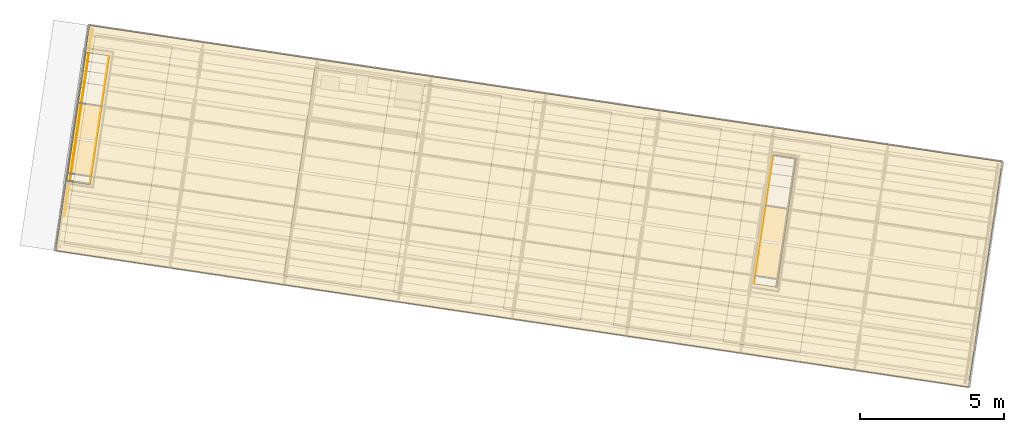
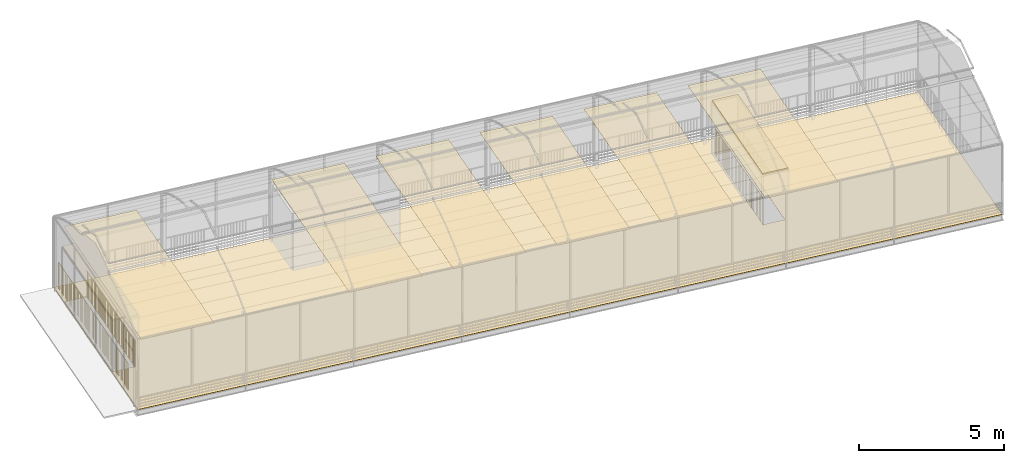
# One storey, part 31 of 34: 10 coverings, 3 railings, 4 openings.
"""IFC4 building model written with IfcOpenShell, lengths in metres."""

from ifc_helpers import new_model, si_unit, direction, frame, origin_with_axes, place, context, subcontext, project, spatial, polyline, circle, outline, extrude, material, element, save


model = new_model("IFC4")

# Units and contexts
model_context = context("Model", 3, precision=1e-05, world=origin_with_axes(), true_north=direction((0.0, 1.0)))
body_context = subcontext(model_context, "Body", "Model", "MODEL_VIEW")
ifc_project = project(units=[si_unit("AREAUNIT", "SQUARE_METRE"), si_unit("VOLUMEUNIT", "CUBIC_METRE"), si_unit("LENGTHUNIT", "METRE")], contexts=[model_context])

# Site, building, storey
site_placement = place(None, origin_with_axes())
site = spatial("IfcSite", under=ifc_project, at=site_placement, Name="Lares · Rua das Mercês · artigo 4771")
building_placement = place(site_placement, frame((15.0, 9.7, 14.65), z_axis=(0.0, 0.0, 1.0), x_axis=(0.989015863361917, -0.147809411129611, 0.0)))
building = spatial("IfcBuilding", under=site, at=building_placement, Name="Casa Sobreposta")
storey_placement = place(building_placement, frame((0.0, 0.0, 3.24), z_axis=(0.0, 0.0, 1.0), x_axis=(1.0, 0.0, 0.0)))
storey = spatial("IfcBuildingStorey", under=building, at=storey_placement, Name="01 · Jardim de inverno", Elevation=17.89)

# Covering, openings
ifc_material_1 = material(Name="Membrana impermeável — hipótese", Category="membrane")
covering_1_placement = place(storey_placement, frame((0.0, 0.0, -0.012), z_axis=(0.0, 0.0, 1.0), x_axis=(1.0, 0.0, 0.0)))
covering_1 = element("IfcCovering", 1, at=covering_1_placement, inside=storey, material=ifc_material_1, Name="Impermeabilização da estufa · hipótese", PredefinedType="FLOORING", context=body_context, shape_type="SweptSolid", body=[
    extrude(outline(polyline([(32.0, -1.5), (32.0, 6.4), (0.0, 6.4), (0.0, -1.5), (32.0, -1.5)])), origin_with_axes(), (0.0, 0.0, 1.0), 0.002),
])
opening_1_placement = place(covering_1_placement, frame((0.0, 0.0, -0.00999999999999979), z_axis=(0.0, 0.0, 1.0), x_axis=(1.0, 0.0, 0.0)))
element("IfcOpeningElement", 2, at=opening_1_placement, cuts=covering_1, Name="Vão de escada 1 · Impermeabilização da estufa · hipótese", PredefinedType="OPENING", context=body_context, shape_type="SweptSolid", body=[
    extrude(outline(polyline([(0.04, 0.9475), (0.84, 0.9475), (0.84, 5.4525), (0.04, 5.4525), (0.04, 0.9475)])), origin_with_axes(), (0.0, 0.0, 1.0), 0.022),
])
opening_2_placement = place(covering_1_placement, frame((0.0, 0.0, -0.00999999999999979), z_axis=(0.0, 0.0, 1.0), x_axis=(1.0, 0.0, 0.0)))
element("IfcOpeningElement", 3, at=opening_2_placement, cuts=covering_1, Name="Vão de escada 2 · Impermeabilização da estufa · hipótese", PredefinedType="OPENING", context=body_context, shape_type="SweptSolid", body=[
    extrude(outline(polyline([(24.91, 0.9475), (24.91, 5.4525), (24.11, 5.4525), (24.11, 0.9475), (24.91, 0.9475)])), origin_with_axes(), (0.0, 0.0, 1.0), 0.022),
])

ifc_material_2 = material(Name="Pavimento protetor leve — hipótese", Category="finish")
covering_2_placement = place(storey_placement, frame((0.0, 0.0, -0.00999999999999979), z_axis=(0.0, 0.0, 1.0), x_axis=(1.0, 0.0, 0.0)))
covering_2 = element("IfcCovering", 4, at=covering_2_placement, inside=storey, material=ifc_material_2, Name="Proteção do pavimento · hipótese", PredefinedType="FLOORING", context=body_context, shape_type="SweptSolid", body=[
    extrude(outline(polyline([(32.0, -1.5), (32.0, 6.4), (0.0, 6.4), (0.0, -1.5), (32.0, -1.5)])), origin_with_axes(), (0.0, 0.0, 1.0), 0.01),
])
opening_3_placement = place(covering_2_placement, frame((0.0, 0.0, -0.00999999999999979), z_axis=(0.0, 0.0, 1.0), x_axis=(1.0, 0.0, 0.0)))
element("IfcOpeningElement", 5, at=opening_3_placement, cuts=covering_2, Name="Vão de escada 1 · Proteção do pavimento · hipótese", PredefinedType="OPENING", context=body_context, shape_type="SweptSolid", body=[
    extrude(outline(polyline([(0.04, 0.9475), (0.84, 0.9475), (0.84, 5.4525), (0.04, 5.4525), (0.04, 0.9475)])), origin_with_axes(), (0.0, 0.0, 1.0), 0.03),
])
opening_4_placement = place(covering_2_placement, frame((0.0, 0.0, -0.00999999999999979), z_axis=(0.0, 0.0, 1.0), x_axis=(1.0, 0.0, 0.0)))
element("IfcOpeningElement", 6, at=opening_4_placement, cuts=covering_2, Name="Vão de escada 2 · Proteção do pavimento · hipótese", PredefinedType="OPENING", context=body_context, shape_type="SweptSolid", body=[
    extrude(outline(polyline([(24.91, 0.9475), (24.91, 5.4525), (24.11, 5.4525), (24.11, 0.9475), (24.91, 0.9475)])), origin_with_axes(), (0.0, 0.0, 1.0), 0.03),
])

# Railing
ifc_material_3 = material(Name="Aço pintado / Stahl lackiert", Category="steel")
railing_1_placement = place(storey_placement, frame((0.0, 0.0, -3.24), z_axis=(0.0, 0.0, 1.0), x_axis=(1.0, 0.0, 0.0)))
element("IfcRailing", 7, at=railing_1_placement, inside=storey, material=ifc_material_3, Name="Guarda perimetral da estufa", PredefinedType="GUARDRAIL", context=body_context, shape_type="SweptSolid", body=[
    extrude(circle(Radius=0.015), frame((0.13, 6.27, 4.34), z_axis=(0.0, -1.0, 0.0), x_axis=(-1.0, 0.0, 0.0)), (0.0, 0.0, 1.0), 6.52),
    extrude(circle(Radius=0.0175), frame((0.13, 6.27, 3.24), z_axis=(0.0, 0.0, 1.0), x_axis=(1.0, 0.0, 0.0)), (0.0, 0.0, 1.0), 1.1),
    extrude(circle(Radius=0.006), frame((0.13, 6.16133333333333, 3.24), z_axis=(0.0, 0.0, 1.0), x_axis=(1.0, 0.0, 0.0)), (0.0, 0.0, 1.0), 1.1),
    extrude(circle(Radius=0.006), frame((0.13, 6.05266666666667, 3.24), z_axis=(0.0, 0.0, 1.0), x_axis=(1.0, 0.0, 0.0)), (0.0, 0.0, 1.0), 1.1),
    extrude(circle(Radius=0.006), frame((0.13, 5.944, 3.24), z_axis=(0.0, 0.0, 1.0), x_axis=(1.0, 0.0, 0.0)), (0.0, 0.0, 1.0), 1.1),
    extrude(circle(Radius=0.006), frame((0.13, 5.83533333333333, 3.24), z_axis=(0.0, 0.0, 1.0), x_axis=(1.0, 0.0, 0.0)), (0.0, 0.0, 1.0), 1.1),
    extrude(circle(Radius=0.006), frame((0.13, 5.72666666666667, 3.24), z_axis=(0.0, 0.0, 1.0), x_axis=(1.0, 0.0, 0.0)), (0.0, 0.0, 1.0), 1.1),
    extrude(circle(Radius=0.006), frame((0.13, 5.618, 3.24), z_axis=(0.0, 0.0, 1.0), x_axis=(1.0, 0.0, 0.0)), (0.0, 0.0, 1.0), 1.1),
    extrude(circle(Radius=0.006), frame((0.13, 5.50933333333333, 3.24), z_axis=(0.0, 0.0, 1.0), x_axis=(1.0, 0.0, 0.0)), (0.0, 0.0, 1.0), 1.1),
    extrude(circle(Radius=0.006), frame((0.13, 5.40066666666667, 3.24), z_axis=(0.0, 0.0, 1.0), x_axis=(1.0, 0.0, 0.0)), (0.0, 0.0, 1.0), 1.1),
    extrude(circle(Radius=0.006), frame((0.13, 5.292, 3.24), z_axis=(0.0, 0.0, 1.0), x_axis=(1.0, 0.0, 0.0)), (0.0, 0.0, 1.0), 1.1),
    extrude(circle(Radius=0.0175), frame((0.13, 5.18333333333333, 3.24), z_axis=(0.0, 0.0, 1.0), x_axis=(1.0, 0.0, 0.0)), (0.0, 0.0, 1.0), 1.1),
    extrude(circle(Radius=0.006), frame((0.13, 5.07466666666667, 3.24), z_axis=(0.0, 0.0, 1.0), x_axis=(1.0, 0.0, 0.0)), (0.0, 0.0, 1.0), 1.1),
    extrude(circle(Radius=0.006), frame((0.13, 4.966, 3.24), z_axis=(0.0, 0.0, 1.0), x_axis=(1.0, 0.0, 0.0)), (0.0, 0.0, 1.0), 1.1),
    extrude(circle(Radius=0.006), frame((0.13, 4.85733333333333, 3.24), z_axis=(0.0, 0.0, 1.0), x_axis=(1.0, 0.0, 0.0)), (0.0, 0.0, 1.0), 1.1),
    extrude(circle(Radius=0.006), frame((0.13, 4.74866666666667, 3.24), z_axis=(0.0, 0.0, 1.0), x_axis=(1.0, 0.0, 0.0)), (0.0, 0.0, 1.0), 1.1),
    extrude(circle(Radius=0.006), frame((0.13, 4.64, 3.24), z_axis=(0.0, 0.0, 1.0), x_axis=(1.0, 0.0, 0.0)), (0.0, 0.0, 1.0), 1.1),
    extrude(circle(Radius=0.006), frame((0.13, 4.53133333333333, 3.24), z_axis=(0.0, 0.0, 1.0), x_axis=(1.0, 0.0, 0.0)), (0.0, 0.0, 1.0), 1.1),
    extrude(circle(Radius=0.006), frame((0.13, 4.42266666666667, 3.24), z_axis=(0.0, 0.0, 1.0), x_axis=(1.0, 0.0, 0.0)), (0.0, 0.0, 1.0), 1.1),
    extrude(circle(Radius=0.006), frame((0.13, 4.314, 3.24), z_axis=(0.0, 0.0, 1.0), x_axis=(1.0, 0.0, 0.0)), (0.0, 0.0, 1.0), 1.1),
    extrude(circle(Radius=0.006), frame((0.13, 4.20533333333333, 3.24), z_axis=(0.0, 0.0, 1.0), x_axis=(1.0, 0.0, 0.0)), (0.0, 0.0, 1.0), 1.1),
    extrude(circle(Radius=0.0175), frame((0.13, 4.09666666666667, 3.24), z_axis=(0.0, 0.0, 1.0), x_axis=(1.0, 0.0, 0.0)), (0.0, 0.0, 1.0), 1.1),
    extrude(circle(Radius=0.006), frame((0.13, 3.988, 3.24), z_axis=(0.0, 0.0, 1.0), x_axis=(1.0, 0.0, 0.0)), (0.0, 0.0, 1.0), 1.1),
    extrude(circle(Radius=0.006), frame((0.13, 3.87933333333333, 3.24), z_axis=(0.0, 0.0, 1.0), x_axis=(1.0, 0.0, 0.0)), (0.0, 0.0, 1.0), 1.1),
    extrude(circle(Radius=0.006), frame((0.13, 3.77066666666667, 3.24), z_axis=(0.0, 0.0, 1.0), x_axis=(1.0, 0.0, 0.0)), (0.0, 0.0, 1.0), 1.1),
    extrude(circle(Radius=0.006), frame((0.13, 3.662, 3.24), z_axis=(0.0, 0.0, 1.0), x_axis=(1.0, 0.0, 0.0)), (0.0, 0.0, 1.0), 1.1),
    extrude(circle(Radius=0.006), frame((0.13, 3.55333333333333, 3.24), z_axis=(0.0, 0.0, 1.0), x_axis=(1.0, 0.0, 0.0)), (0.0, 0.0, 1.0), 1.1),
    extrude(circle(Radius=0.006), frame((0.13, 3.44466666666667, 3.24), z_axis=(0.0, 0.0, 1.0), x_axis=(1.0, 0.0, 0.0)), (0.0, 0.0, 1.0), 1.1),
    extrude(circle(Radius=0.006), frame((0.13, 3.336, 3.24), z_axis=(0.0, 0.0, 1.0), x_axis=(1.0, 0.0, 0.0)), (0.0, 0.0, 1.0), 1.1),
    extrude(circle(Radius=0.006), frame((0.13, 3.22733333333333, 3.24), z_axis=(0.0, 0.0, 1.0), x_axis=(1.0, 0.0, 0.0)), (0.0, 0.0, 1.0), 1.1),
    extrude(circle(Radius=0.006), frame((0.13, 3.11866666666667, 3.24), z_axis=(0.0, 0.0, 1.0), x_axis=(1.0, 0.0, 0.0)), (0.0, 0.0, 1.0), 1.1),
    extrude(circle(Radius=0.0175), frame((0.13, 3.01, 3.24), z_axis=(0.0, 0.0, 1.0), x_axis=(1.0, 0.0, 0.0)), (0.0, 0.0, 1.0), 1.1),
    extrude(circle(Radius=0.006), frame((0.13, 2.90133333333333, 3.24), z_axis=(0.0, 0.0, 1.0), x_axis=(1.0, 0.0, 0.0)), (0.0, 0.0, 1.0), 1.1),
    extrude(circle(Radius=0.006), frame((0.13, 2.79266666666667, 3.24), z_axis=(0.0, 0.0, 1.0), x_axis=(1.0, 0.0, 0.0)), (0.0, 0.0, 1.0), 1.1),
    extrude(circle(Radius=0.006), frame((0.13, 2.684, 3.24), z_axis=(0.0, 0.0, 1.0), x_axis=(1.0, 0.0, 0.0)), (0.0, 0.0, 1.0), 1.1),
    extrude(circle(Radius=0.006), frame((0.13, 2.57533333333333, 3.24), z_axis=(0.0, 0.0, 1.0), x_axis=(1.0, 0.0, 0.0)), (0.0, 0.0, 1.0), 1.1),
    extrude(circle(Radius=0.006), frame((0.13, 2.46666666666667, 3.24), z_axis=(0.0, 0.0, 1.0), x_axis=(1.0, 0.0, 0.0)), (0.0, 0.0, 1.0), 1.1),
    extrude(circle(Radius=0.006), frame((0.13, 2.358, 3.24), z_axis=(0.0, 0.0, 1.0), x_axis=(1.0, 0.0, 0.0)), (0.0, 0.0, 1.0), 1.1),
    extrude(circle(Radius=0.006), frame((0.13, 2.24933333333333, 3.24), z_axis=(0.0, 0.0, 1.0), x_axis=(1.0, 0.0, 0.0)), (0.0, 0.0, 1.0), 1.1),
    extrude(circle(Radius=0.006), frame((0.13, 2.14066666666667, 3.24), z_axis=(0.0, 0.0, 1.0), x_axis=(1.0, 0.0, 0.0)), (0.0, 0.0, 1.0), 1.1),
    extrude(circle(Radius=0.006), frame((0.13, 2.032, 3.24), z_axis=(0.0, 0.0, 1.0), x_axis=(1.0, 0.0, 0.0)), (0.0, 0.0, 1.0), 1.1),
    extrude(circle(Radius=0.0175), frame((0.13, 1.92333333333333, 3.24), z_axis=(0.0, 0.0, 1.0), x_axis=(1.0, 0.0, 0.0)), (0.0, 0.0, 1.0), 1.1),
    extrude(circle(Radius=0.006), frame((0.13, 1.81466666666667, 3.24), z_axis=(0.0, 0.0, 1.0), x_axis=(1.0, 0.0, 0.0)), (0.0, 0.0, 1.0), 1.1),
    extrude(circle(Radius=0.006), frame((0.13, 1.706, 3.24), z_axis=(0.0, 0.0, 1.0), x_axis=(1.0, 0.0, 0.0)), (0.0, 0.0, 1.0), 1.1),
    extrude(circle(Radius=0.006), frame((0.13, 1.59733333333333, 3.24), z_axis=(0.0, 0.0, 1.0), x_axis=(1.0, 0.0, 0.0)), (0.0, 0.0, 1.0), 1.1),
    extrude(circle(Radius=0.006), frame((0.13, 1.48866666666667, 3.24), z_axis=(0.0, 0.0, 1.0), x_axis=(1.0, 0.0, 0.0)), (0.0, 0.0, 1.0), 1.1),
    extrude(circle(Radius=0.006), frame((0.13, 1.38, 3.24), z_axis=(0.0, 0.0, 1.0), x_axis=(1.0, 0.0, 0.0)), (0.0, 0.0, 1.0), 1.1),
    extrude(circle(Radius=0.006), frame((0.13, 1.27133333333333, 3.24), z_axis=(0.0, 0.0, 1.0), x_axis=(1.0, 0.0, 0.0)), (0.0, 0.0, 1.0), 1.1),
    extrude(circle(Radius=0.006), frame((0.13, 1.16266666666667, 3.24), z_axis=(0.0, 0.0, 1.0), x_axis=(1.0, 0.0, 0.0)), (0.0, 0.0, 1.0), 1.1),
    extrude(circle(Radius=0.006), frame((0.13, 1.054, 3.24), z_axis=(0.0, 0.0, 1.0), x_axis=(1.0, 0.0, 0.0)), (0.0, 0.0, 1.0), 1.1),
    extrude(circle(Radius=0.006), frame((0.13, 0.945333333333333, 3.24), z_axis=(0.0, 0.0, 1.0), x_axis=(1.0, 0.0, 0.0)), (0.0, 0.0, 1.0), 1.1),
    extrude(circle(Radius=0.0175), frame((0.13, 0.836666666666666, 3.24), z_axis=(0.0, 0.0, 1.0), x_axis=(1.0, 0.0, 0.0)), (0.0, 0.0, 1.0), 1.1),
    extrude(circle(Radius=0.006), frame((0.13, 0.728, 3.24), z_axis=(0.0, 0.0, 1.0), x_axis=(1.0, 0.0, 0.0)), (0.0, 0.0, 1.0), 1.1),
    extrude(circle(Radius=0.006), frame((0.13, 0.619333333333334, 3.24), z_axis=(0.0, 0.0, 1.0), x_axis=(1.0, 0.0, 0.0)), (0.0, 0.0, 1.0), 1.1),
    extrude(circle(Radius=0.006), frame((0.13, 0.510666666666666, 3.24), z_axis=(0.0, 0.0, 1.0), x_axis=(1.0, 0.0, 0.0)), (0.0, 0.0, 1.0), 1.1),
    extrude(circle(Radius=0.006), frame((0.13, 0.402, 3.24), z_axis=(0.0, 0.0, 1.0), x_axis=(1.0, 0.0, 0.0)), (0.0, 0.0, 1.0), 1.1),
    extrude(circle(Radius=0.006), frame((0.13, 0.293333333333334, 3.24), z_axis=(0.0, 0.0, 1.0), x_axis=(1.0, 0.0, 0.0)), (0.0, 0.0, 1.0), 1.1),
    extrude(circle(Radius=0.006), frame((0.13, 0.184666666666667, 3.24), z_axis=(0.0, 0.0, 1.0), x_axis=(1.0, 0.0, 0.0)), (0.0, 0.0, 1.0), 1.1),
    extrude(circle(Radius=0.006), frame((0.13, 0.0760000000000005, 3.24), z_axis=(0.0, 0.0, 1.0), x_axis=(1.0, 0.0, 0.0)), (0.0, 0.0, 1.0), 1.1),
    extrude(circle(Radius=0.006), frame((0.13, -0.0326666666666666, 3.24), z_axis=(0.0, 0.0, 1.0), x_axis=(1.0, 0.0, 0.0)), (0.0, 0.0, 1.0), 1.1),
    extrude(circle(Radius=0.006), frame((0.13, -0.141333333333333, 3.24), z_axis=(0.0, 0.0, 1.0), x_axis=(1.0, 0.0, 0.0)), (0.0, 0.0, 1.0), 1.1),
    extrude(circle(Radius=0.0175), frame((0.13, -0.25, 3.24), z_axis=(0.0, 0.0, 1.0), x_axis=(1.0, 0.0, 0.0)), (0.0, 0.0, 1.0), 1.1),
])

# Coverings
ifc_material_4 = material(Name="Tecido de sombreamento — hipótese", Category="fabric")
covering_3_placement = place(storey_placement, frame((0.0, 0.0, 2.68), z_axis=(0.0, 0.0, 1.0), x_axis=(1.0, 0.0, 0.0)))
element("IfcCovering", 8, at=covering_3_placement, inside=storey, material=ifc_material_4, Name="Cortina interior · 75%", ObjectType="Cortina interior · 75%", PredefinedType="USERDEFINED", context=body_context, shape_type="SweptSolid", body=[
    extrude(outline(polyline([(2.95, -1.2), (2.95, 6.1), (0.25, 6.1), (0.25, -1.2), (2.95, -1.2)])), origin_with_axes(), (0.0, 0.0, 1.0), 0.004),
])
covering_4_placement = place(storey_placement, frame((0.0, 0.0, 2.68), z_axis=(0.0, 0.0, 1.0), x_axis=(1.0, 0.0, 0.0)))
element("IfcCovering", 9, at=covering_4_placement, inside=storey, material=ifc_material_4, Name="Cortina interior · 75%", ObjectType="Cortina interior · 75%", PredefinedType="USERDEFINED", context=body_context, shape_type="SweptSolid", body=[
    extrude(outline(polyline([(10.65, -1.2), (10.65, 6.1), (7.95, 6.1), (7.95, -1.2), (10.65, -1.2)])), origin_with_axes(), (0.0, 0.0, 1.0), 0.004),
])
covering_5_placement = place(storey_placement, frame((0.0, 0.0, 2.68), z_axis=(0.0, 0.0, 1.0), x_axis=(1.0, 0.0, 0.0)))
element("IfcCovering", 10, at=covering_5_placement, inside=storey, material=ifc_material_4, Name="Cortina interior · 75%", ObjectType="Cortina interior · 75%", PredefinedType="USERDEFINED", context=body_context, shape_type="SweptSolid", body=[
    extrude(outline(polyline([(14.5, -1.2), (14.5, 6.1), (11.8, 6.1), (11.8, -1.2), (14.5, -1.2)])), origin_with_axes(), (0.0, 0.0, 1.0), 0.004),
])
covering_6_placement = place(storey_placement, frame((0.0, 0.0, 2.68), z_axis=(0.0, 0.0, 1.0), x_axis=(1.0, 0.0, 0.0)))
element("IfcCovering", 11, at=covering_6_placement, inside=storey, material=ifc_material_4, Name="Cortina interior · 75%", ObjectType="Cortina interior · 75%", PredefinedType="USERDEFINED", context=body_context, shape_type="SweptSolid", body=[
    extrude(outline(polyline([(18.35, -1.2), (18.35, 6.1), (15.65, 6.1), (15.65, -1.2), (18.35, -1.2)])), origin_with_axes(), (0.0, 0.0, 1.0), 0.004),
])
covering_7_placement = place(storey_placement, frame((0.0, 0.0, 2.68), z_axis=(0.0, 0.0, 1.0), x_axis=(1.0, 0.0, 0.0)))
element("IfcCovering", 12, at=covering_7_placement, inside=storey, material=ifc_material_4, Name="Cortina interior · 75%", ObjectType="Cortina interior · 75%", PredefinedType="USERDEFINED", context=body_context, shape_type="SweptSolid", body=[
    extrude(outline(polyline([(22.2, -1.2), (22.2, 6.1), (19.5, 6.1), (19.5, -1.2), (22.2, -1.2)])), origin_with_axes(), (0.0, 0.0, 1.0), 0.004),
])
covering_8_placement = place(storey_placement, frame((0.0, 0.0, 2.68), z_axis=(0.0, 0.0, 1.0), x_axis=(1.0, 0.0, 0.0)))
element("IfcCovering", 13, at=covering_8_placement, inside=storey, material=ifc_material_4, Name="Cortina interior · 75%", ObjectType="Cortina interior · 75%", PredefinedType="USERDEFINED", context=body_context, shape_type="SweptSolid", body=[
    extrude(outline(polyline([(26.05, -1.2), (26.05, 6.1), (23.35, 6.1), (23.35, -1.2), (26.05, -1.2)])), origin_with_axes(), (0.0, 0.0, 1.0), 0.004),
])

# Railings
railing_2_placement = place(storey_placement, frame((0.0, 0.0, -3.24), z_axis=(0.0, 0.0, 1.0), x_axis=(1.0, 0.0, 0.0)))
element("IfcRailing", 14, at=railing_2_placement, inside=storey, material=ifc_material_3, Name="Guarda do vazio", PredefinedType="GUARDRAIL", context=body_context, shape_type="SweptSolid", body=[
    extrude(circle(Radius=0.015), frame((0.84, 0.9475, 4.34), z_axis=(0.0, 1.0, 0.0), x_axis=(1.0, 0.0, 0.0)), (0.0, 0.0, 1.0), 4.505),
    extrude(circle(Radius=0.0175), frame((0.84, 0.9475, 3.24), z_axis=(0.0, 0.0, 1.0), x_axis=(1.0, 0.0, 0.0)), (0.0, 0.0, 1.0), 1.1),
    extrude(circle(Radius=0.006), frame((0.84, 1.05737804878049, 3.24), z_axis=(0.0, 0.0, 1.0), x_axis=(1.0, 0.0, 0.0)), (0.0, 0.0, 1.0), 1.1),
    extrude(circle(Radius=0.006), frame((0.84, 1.16725609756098, 3.24), z_axis=(0.0, 0.0, 1.0), x_axis=(1.0, 0.0, 0.0)), (0.0, 0.0, 1.0), 1.1),
    extrude(circle(Radius=0.006), frame((0.84, 1.27713414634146, 3.24), z_axis=(0.0, 0.0, 1.0), x_axis=(1.0, 0.0, 0.0)), (0.0, 0.0, 1.0), 1.1),
    extrude(circle(Radius=0.006), frame((0.84, 1.38701219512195, 3.24), z_axis=(0.0, 0.0, 1.0), x_axis=(1.0, 0.0, 0.0)), (0.0, 0.0, 1.0), 1.1),
    extrude(circle(Radius=0.006), frame((0.84, 1.49689024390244, 3.24), z_axis=(0.0, 0.0, 1.0), x_axis=(1.0, 0.0, 0.0)), (0.0, 0.0, 1.0), 1.1),
    extrude(circle(Radius=0.006), frame((0.84, 1.60676829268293, 3.24), z_axis=(0.0, 0.0, 1.0), x_axis=(1.0, 0.0, 0.0)), (0.0, 0.0, 1.0), 1.1),
    extrude(circle(Radius=0.006), frame((0.84, 1.71664634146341, 3.24), z_axis=(0.0, 0.0, 1.0), x_axis=(1.0, 0.0, 0.0)), (0.0, 0.0, 1.0), 1.1),
    extrude(circle(Radius=0.006), frame((0.84, 1.8265243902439, 3.24), z_axis=(0.0, 0.0, 1.0), x_axis=(1.0, 0.0, 0.0)), (0.0, 0.0, 1.0), 1.1),
    extrude(circle(Radius=0.006), frame((0.84, 1.93640243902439, 3.24), z_axis=(0.0, 0.0, 1.0), x_axis=(1.0, 0.0, 0.0)), (0.0, 0.0, 1.0), 1.1),
    extrude(circle(Radius=0.0175), frame((0.84, 2.04628048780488, 3.24), z_axis=(0.0, 0.0, 1.0), x_axis=(1.0, 0.0, 0.0)), (0.0, 0.0, 1.0), 1.1),
    extrude(circle(Radius=0.006), frame((0.84, 2.15615853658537, 3.24), z_axis=(0.0, 0.0, 1.0), x_axis=(1.0, 0.0, 0.0)), (0.0, 0.0, 1.0), 1.1),
    extrude(circle(Radius=0.006), frame((0.84, 2.26603658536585, 3.24), z_axis=(0.0, 0.0, 1.0), x_axis=(1.0, 0.0, 0.0)), (0.0, 0.0, 1.0), 1.1),
    extrude(circle(Radius=0.006), frame((0.84, 2.37591463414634, 3.24), z_axis=(0.0, 0.0, 1.0), x_axis=(1.0, 0.0, 0.0)), (0.0, 0.0, 1.0), 1.1),
    extrude(circle(Radius=0.006), frame((0.84, 2.48579268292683, 3.24), z_axis=(0.0, 0.0, 1.0), x_axis=(1.0, 0.0, 0.0)), (0.0, 0.0, 1.0), 1.1),
    extrude(circle(Radius=0.006), frame((0.84, 2.59567073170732, 3.24), z_axis=(0.0, 0.0, 1.0), x_axis=(1.0, 0.0, 0.0)), (0.0, 0.0, 1.0), 1.1),
    extrude(circle(Radius=0.006), frame((0.84, 2.7055487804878, 3.24), z_axis=(0.0, 0.0, 1.0), x_axis=(1.0, 0.0, 0.0)), (0.0, 0.0, 1.0), 1.1),
    extrude(circle(Radius=0.006), frame((0.84, 2.81542682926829, 3.24), z_axis=(0.0, 0.0, 1.0), x_axis=(1.0, 0.0, 0.0)), (0.0, 0.0, 1.0), 1.1),
    extrude(circle(Radius=0.006), frame((0.84, 2.92530487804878, 3.24), z_axis=(0.0, 0.0, 1.0), x_axis=(1.0, 0.0, 0.0)), (0.0, 0.0, 1.0), 1.1),
    extrude(circle(Radius=0.006), frame((0.84, 3.03518292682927, 3.24), z_axis=(0.0, 0.0, 1.0), x_axis=(1.0, 0.0, 0.0)), (0.0, 0.0, 1.0), 1.1),
    extrude(circle(Radius=0.0175), frame((0.84, 3.14506097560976, 3.24), z_axis=(0.0, 0.0, 1.0), x_axis=(1.0, 0.0, 0.0)), (0.0, 0.0, 1.0), 1.1),
    extrude(circle(Radius=0.006), frame((0.84, 3.25493902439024, 3.24), z_axis=(0.0, 0.0, 1.0), x_axis=(1.0, 0.0, 0.0)), (0.0, 0.0, 1.0), 1.1),
    extrude(circle(Radius=0.006), frame((0.84, 3.36481707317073, 3.24), z_axis=(0.0, 0.0, 1.0), x_axis=(1.0, 0.0, 0.0)), (0.0, 0.0, 1.0), 1.1),
    extrude(circle(Radius=0.006), frame((0.84, 3.47469512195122, 3.24), z_axis=(0.0, 0.0, 1.0), x_axis=(1.0, 0.0, 0.0)), (0.0, 0.0, 1.0), 1.1),
    extrude(circle(Radius=0.006), frame((0.84, 3.58457317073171, 3.24), z_axis=(0.0, 0.0, 1.0), x_axis=(1.0, 0.0, 0.0)), (0.0, 0.0, 1.0), 1.1),
    extrude(circle(Radius=0.006), frame((0.84, 3.6944512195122, 3.24), z_axis=(0.0, 0.0, 1.0), x_axis=(1.0, 0.0, 0.0)), (0.0, 0.0, 1.0), 1.1),
    extrude(circle(Radius=0.006), frame((0.84, 3.80432926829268, 3.24), z_axis=(0.0, 0.0, 1.0), x_axis=(1.0, 0.0, 0.0)), (0.0, 0.0, 1.0), 1.1),
    extrude(circle(Radius=0.006), frame((0.84, 3.91420731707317, 3.24), z_axis=(0.0, 0.0, 1.0), x_axis=(1.0, 0.0, 0.0)), (0.0, 0.0, 1.0), 1.1),
    extrude(circle(Radius=0.006), frame((0.84, 4.02408536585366, 3.24), z_axis=(0.0, 0.0, 1.0), x_axis=(1.0, 0.0, 0.0)), (0.0, 0.0, 1.0), 1.1),
    extrude(circle(Radius=0.006), frame((0.84, 4.13396341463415, 3.24), z_axis=(0.0, 0.0, 1.0), x_axis=(1.0, 0.0, 0.0)), (0.0, 0.0, 1.0), 1.1),
    extrude(circle(Radius=0.0175), frame((0.84, 4.24384146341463, 3.24), z_axis=(0.0, 0.0, 1.0), x_axis=(1.0, 0.0, 0.0)), (0.0, 0.0, 1.0), 1.1),
    extrude(circle(Radius=0.006), frame((0.84, 4.35371951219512, 3.24), z_axis=(0.0, 0.0, 1.0), x_axis=(1.0, 0.0, 0.0)), (0.0, 0.0, 1.0), 1.1),
    extrude(circle(Radius=0.006), frame((0.84, 4.46359756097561, 3.24), z_axis=(0.0, 0.0, 1.0), x_axis=(1.0, 0.0, 0.0)), (0.0, 0.0, 1.0), 1.1),
    extrude(circle(Radius=0.006), frame((0.84, 4.5734756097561, 3.24), z_axis=(0.0, 0.0, 1.0), x_axis=(1.0, 0.0, 0.0)), (0.0, 0.0, 1.0), 1.1),
    extrude(circle(Radius=0.006), frame((0.84, 4.68335365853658, 3.24), z_axis=(0.0, 0.0, 1.0), x_axis=(1.0, 0.0, 0.0)), (0.0, 0.0, 1.0), 1.1),
    extrude(circle(Radius=0.006), frame((0.84, 4.79323170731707, 3.24), z_axis=(0.0, 0.0, 1.0), x_axis=(1.0, 0.0, 0.0)), (0.0, 0.0, 1.0), 1.1),
    extrude(circle(Radius=0.006), frame((0.84, 4.90310975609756, 3.24), z_axis=(0.0, 0.0, 1.0), x_axis=(1.0, 0.0, 0.0)), (0.0, 0.0, 1.0), 1.1),
    extrude(circle(Radius=0.006), frame((0.84, 5.01298780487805, 3.24), z_axis=(0.0, 0.0, 1.0), x_axis=(1.0, 0.0, 0.0)), (0.0, 0.0, 1.0), 1.1),
    extrude(circle(Radius=0.006), frame((0.84, 5.12286585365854, 3.24), z_axis=(0.0, 0.0, 1.0), x_axis=(1.0, 0.0, 0.0)), (0.0, 0.0, 1.0), 1.1),
    extrude(circle(Radius=0.006), frame((0.84, 5.23274390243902, 3.24), z_axis=(0.0, 0.0, 1.0), x_axis=(1.0, 0.0, 0.0)), (0.0, 0.0, 1.0), 1.1),
    extrude(circle(Radius=0.0175), frame((0.84, 5.34262195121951, 3.24), z_axis=(0.0, 0.0, 1.0), x_axis=(1.0, 0.0, 0.0)), (0.0, 0.0, 1.0), 1.1),
    extrude(circle(Radius=0.006), frame((0.84, 5.4525, 3.24), z_axis=(0.0, 0.0, 1.0), x_axis=(1.0, 0.0, 0.0)), (0.0, 0.0, 1.0), 1.1),
])
railing_3_placement = place(storey_placement, frame((0.0, 0.0, -3.24), z_axis=(0.0, 0.0, 1.0), x_axis=(1.0, 0.0, 0.0)))
element("IfcRailing", 15, at=railing_3_placement, inside=storey, material=ifc_material_3, Name="Guarda do vazio", PredefinedType="GUARDRAIL", context=body_context, shape_type="SweptSolid", body=[
    extrude(circle(Radius=0.015), frame((24.11, 0.9475, 4.34), z_axis=(0.0, 1.0, 0.0), x_axis=(1.0, 0.0, 0.0)), (0.0, 0.0, 1.0), 4.505),
    extrude(circle(Radius=0.0175), frame((24.11, 0.9475, 3.24), z_axis=(0.0, 0.0, 1.0), x_axis=(1.0, 0.0, 0.0)), (0.0, 0.0, 1.0), 1.1),
    extrude(circle(Radius=0.006), frame((24.11, 1.05737804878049, 3.24), z_axis=(0.0, 0.0, 1.0), x_axis=(1.0, 0.0, 0.0)), (0.0, 0.0, 1.0), 1.1),
    extrude(circle(Radius=0.006), frame((24.11, 1.16725609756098, 3.24), z_axis=(0.0, 0.0, 1.0), x_axis=(1.0, 0.0, 0.0)), (0.0, 0.0, 1.0), 1.1),
    extrude(circle(Radius=0.006), frame((24.11, 1.27713414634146, 3.24), z_axis=(0.0, 0.0, 1.0), x_axis=(1.0, 0.0, 0.0)), (0.0, 0.0, 1.0), 1.1),
    extrude(circle(Radius=0.006), frame((24.11, 1.38701219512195, 3.24), z_axis=(0.0, 0.0, 1.0), x_axis=(1.0, 0.0, 0.0)), (0.0, 0.0, 1.0), 1.1),
    extrude(circle(Radius=0.006), frame((24.11, 1.49689024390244, 3.24), z_axis=(0.0, 0.0, 1.0), x_axis=(1.0, 0.0, 0.0)), (0.0, 0.0, 1.0), 1.1),
    extrude(circle(Radius=0.006), frame((24.11, 1.60676829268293, 3.24), z_axis=(0.0, 0.0, 1.0), x_axis=(1.0, 0.0, 0.0)), (0.0, 0.0, 1.0), 1.1),
    extrude(circle(Radius=0.006), frame((24.11, 1.71664634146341, 3.24), z_axis=(0.0, 0.0, 1.0), x_axis=(1.0, 0.0, 0.0)), (0.0, 0.0, 1.0), 1.1),
    extrude(circle(Radius=0.006), frame((24.11, 1.8265243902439, 3.24), z_axis=(0.0, 0.0, 1.0), x_axis=(1.0, 0.0, 0.0)), (0.0, 0.0, 1.0), 1.1),
    extrude(circle(Radius=0.006), frame((24.11, 1.93640243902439, 3.24), z_axis=(0.0, 0.0, 1.0), x_axis=(1.0, 0.0, 0.0)), (0.0, 0.0, 1.0), 1.1),
    extrude(circle(Radius=0.0175), frame((24.11, 2.04628048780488, 3.24), z_axis=(0.0, 0.0, 1.0), x_axis=(1.0, 0.0, 0.0)), (0.0, 0.0, 1.0), 1.1),
    extrude(circle(Radius=0.006), frame((24.11, 2.15615853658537, 3.24), z_axis=(0.0, 0.0, 1.0), x_axis=(1.0, 0.0, 0.0)), (0.0, 0.0, 1.0), 1.1),
    extrude(circle(Radius=0.006), frame((24.11, 2.26603658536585, 3.24), z_axis=(0.0, 0.0, 1.0), x_axis=(1.0, 0.0, 0.0)), (0.0, 0.0, 1.0), 1.1),
    extrude(circle(Radius=0.006), frame((24.11, 2.37591463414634, 3.24), z_axis=(0.0, 0.0, 1.0), x_axis=(1.0, 0.0, 0.0)), (0.0, 0.0, 1.0), 1.1),
    extrude(circle(Radius=0.006), frame((24.11, 2.48579268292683, 3.24), z_axis=(0.0, 0.0, 1.0), x_axis=(1.0, 0.0, 0.0)), (0.0, 0.0, 1.0), 1.1),
    extrude(circle(Radius=0.006), frame((24.11, 2.59567073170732, 3.24), z_axis=(0.0, 0.0, 1.0), x_axis=(1.0, 0.0, 0.0)), (0.0, 0.0, 1.0), 1.1),
    extrude(circle(Radius=0.006), frame((24.11, 2.7055487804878, 3.24), z_axis=(0.0, 0.0, 1.0), x_axis=(1.0, 0.0, 0.0)), (0.0, 0.0, 1.0), 1.1),
    extrude(circle(Radius=0.006), frame((24.11, 2.81542682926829, 3.24), z_axis=(0.0, 0.0, 1.0), x_axis=(1.0, 0.0, 0.0)), (0.0, 0.0, 1.0), 1.1),
    extrude(circle(Radius=0.006), frame((24.11, 2.92530487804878, 3.24), z_axis=(0.0, 0.0, 1.0), x_axis=(1.0, 0.0, 0.0)), (0.0, 0.0, 1.0), 1.1),
    extrude(circle(Radius=0.006), frame((24.11, 3.03518292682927, 3.24), z_axis=(0.0, 0.0, 1.0), x_axis=(1.0, 0.0, 0.0)), (0.0, 0.0, 1.0), 1.1),
    extrude(circle(Radius=0.0175), frame((24.11, 3.14506097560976, 3.24), z_axis=(0.0, 0.0, 1.0), x_axis=(1.0, 0.0, 0.0)), (0.0, 0.0, 1.0), 1.1),
    extrude(circle(Radius=0.006), frame((24.11, 3.25493902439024, 3.24), z_axis=(0.0, 0.0, 1.0), x_axis=(1.0, 0.0, 0.0)), (0.0, 0.0, 1.0), 1.1),
    extrude(circle(Radius=0.006), frame((24.11, 3.36481707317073, 3.24), z_axis=(0.0, 0.0, 1.0), x_axis=(1.0, 0.0, 0.0)), (0.0, 0.0, 1.0), 1.1),
    extrude(circle(Radius=0.006), frame((24.11, 3.47469512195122, 3.24), z_axis=(0.0, 0.0, 1.0), x_axis=(1.0, 0.0, 0.0)), (0.0, 0.0, 1.0), 1.1),
    extrude(circle(Radius=0.006), frame((24.11, 3.58457317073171, 3.24), z_axis=(0.0, 0.0, 1.0), x_axis=(1.0, 0.0, 0.0)), (0.0, 0.0, 1.0), 1.1),
    extrude(circle(Radius=0.006), frame((24.11, 3.6944512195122, 3.24), z_axis=(0.0, 0.0, 1.0), x_axis=(1.0, 0.0, 0.0)), (0.0, 0.0, 1.0), 1.1),
    extrude(circle(Radius=0.006), frame((24.11, 3.80432926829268, 3.24), z_axis=(0.0, 0.0, 1.0), x_axis=(1.0, 0.0, 0.0)), (0.0, 0.0, 1.0), 1.1),
    extrude(circle(Radius=0.006), frame((24.11, 3.91420731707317, 3.24), z_axis=(0.0, 0.0, 1.0), x_axis=(1.0, 0.0, 0.0)), (0.0, 0.0, 1.0), 1.1),
    extrude(circle(Radius=0.006), frame((24.11, 4.02408536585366, 3.24), z_axis=(0.0, 0.0, 1.0), x_axis=(1.0, 0.0, 0.0)), (0.0, 0.0, 1.0), 1.1),
    extrude(circle(Radius=0.006), frame((24.11, 4.13396341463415, 3.24), z_axis=(0.0, 0.0, 1.0), x_axis=(1.0, 0.0, 0.0)), (0.0, 0.0, 1.0), 1.1),
    extrude(circle(Radius=0.0175), frame((24.11, 4.24384146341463, 3.24), z_axis=(0.0, 0.0, 1.0), x_axis=(1.0, 0.0, 0.0)), (0.0, 0.0, 1.0), 1.1),
    extrude(circle(Radius=0.006), frame((24.11, 4.35371951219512, 3.24), z_axis=(0.0, 0.0, 1.0), x_axis=(1.0, 0.0, 0.0)), (0.0, 0.0, 1.0), 1.1),
    extrude(circle(Radius=0.006), frame((24.11, 4.46359756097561, 3.24), z_axis=(0.0, 0.0, 1.0), x_axis=(1.0, 0.0, 0.0)), (0.0, 0.0, 1.0), 1.1),
    extrude(circle(Radius=0.006), frame((24.11, 4.5734756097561, 3.24), z_axis=(0.0, 0.0, 1.0), x_axis=(1.0, 0.0, 0.0)), (0.0, 0.0, 1.0), 1.1),
    extrude(circle(Radius=0.006), frame((24.11, 4.68335365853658, 3.24), z_axis=(0.0, 0.0, 1.0), x_axis=(1.0, 0.0, 0.0)), (0.0, 0.0, 1.0), 1.1),
    extrude(circle(Radius=0.006), frame((24.11, 4.79323170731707, 3.24), z_axis=(0.0, 0.0, 1.0), x_axis=(1.0, 0.0, 0.0)), (0.0, 0.0, 1.0), 1.1),
    extrude(circle(Radius=0.006), frame((24.11, 4.90310975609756, 3.24), z_axis=(0.0, 0.0, 1.0), x_axis=(1.0, 0.0, 0.0)), (0.0, 0.0, 1.0), 1.1),
    extrude(circle(Radius=0.006), frame((24.11, 5.01298780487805, 3.24), z_axis=(0.0, 0.0, 1.0), x_axis=(1.0, 0.0, 0.0)), (0.0, 0.0, 1.0), 1.1),
    extrude(circle(Radius=0.006), frame((24.11, 5.12286585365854, 3.24), z_axis=(0.0, 0.0, 1.0), x_axis=(1.0, 0.0, 0.0)), (0.0, 0.0, 1.0), 1.1),
    extrude(circle(Radius=0.006), frame((24.11, 5.23274390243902, 3.24), z_axis=(0.0, 0.0, 1.0), x_axis=(1.0, 0.0, 0.0)), (0.0, 0.0, 1.0), 1.1),
    extrude(circle(Radius=0.0175), frame((24.11, 5.34262195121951, 3.24), z_axis=(0.0, 0.0, 1.0), x_axis=(1.0, 0.0, 0.0)), (0.0, 0.0, 1.0), 1.1),
    extrude(circle(Radius=0.006), frame((24.11, 5.4525, 3.24), z_axis=(0.0, 0.0, 1.0), x_axis=(1.0, 0.0, 0.0)), (0.0, 0.0, 1.0), 1.1),
])

# Coverings
covering_9_placement = place(storey_placement, frame((0.0, 0.0, 2.2), z_axis=(0.0, 0.0, 1.0), x_axis=(1.0, 0.0, 0.0)))
element("IfcCovering", 16, at=covering_9_placement, inside=storey, material=ifc_material_2, Name="Teto caixa térmica 1", PredefinedType="CEILING", context=body_context, shape_type="SweptSolid", body=[
    extrude(outline(polyline([(0.96, 0.85), (0.96, 5.6), (0.01, 5.6), (0.01, 0.85), (0.96, 0.85)])), origin_with_axes(), (0.0, 0.0, 1.0), 0.06),
])
covering_10_placement = place(storey_placement, frame((0.0, 0.0, 2.2), z_axis=(0.0, 0.0, 1.0), x_axis=(1.0, 0.0, 0.0)))
element("IfcCovering", 17, at=covering_10_placement, inside=storey, material=ifc_material_2, Name="Teto caixa térmica 2", PredefinedType="CEILING", context=body_context, shape_type="SweptSolid", body=[
    extrude(outline(polyline([(24.99, 0.8), (24.99, 5.55), (24.03, 5.55), (24.03, 0.8), (24.99, 0.8)])), origin_with_axes(), (0.0, 0.0, 1.0), 0.06),
])

save(model, "model.ifc")
